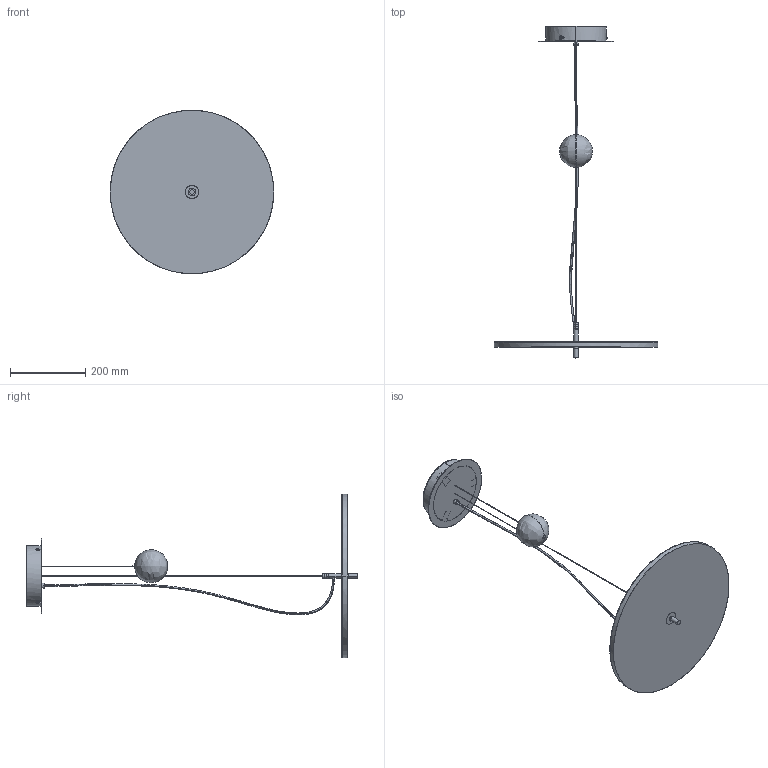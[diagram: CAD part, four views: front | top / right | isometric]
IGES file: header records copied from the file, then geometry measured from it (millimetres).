
Start section: SolidWorks IGES file using NURBS representation for surfaces
Global section: file name: C:\Users\aitor.torredeflot\Desktop\BlancoWhite D2 Ceiling Up&Down.IGS; native system: SolidWorks 2016; preprocessor: SolidWorks 2016; author: aitor.torredeflot; date: 170929.124622; units: millimetre
Bounding box: 436 x 885 x 436 mm (x, y, z)
Surface area: 522544.5 mm2 (no closed solid volume)
Topology: 0 solids, 0 shells, 243 faces, 2700 edges, 2698 vertices
Faces by surface type: bspline 243
